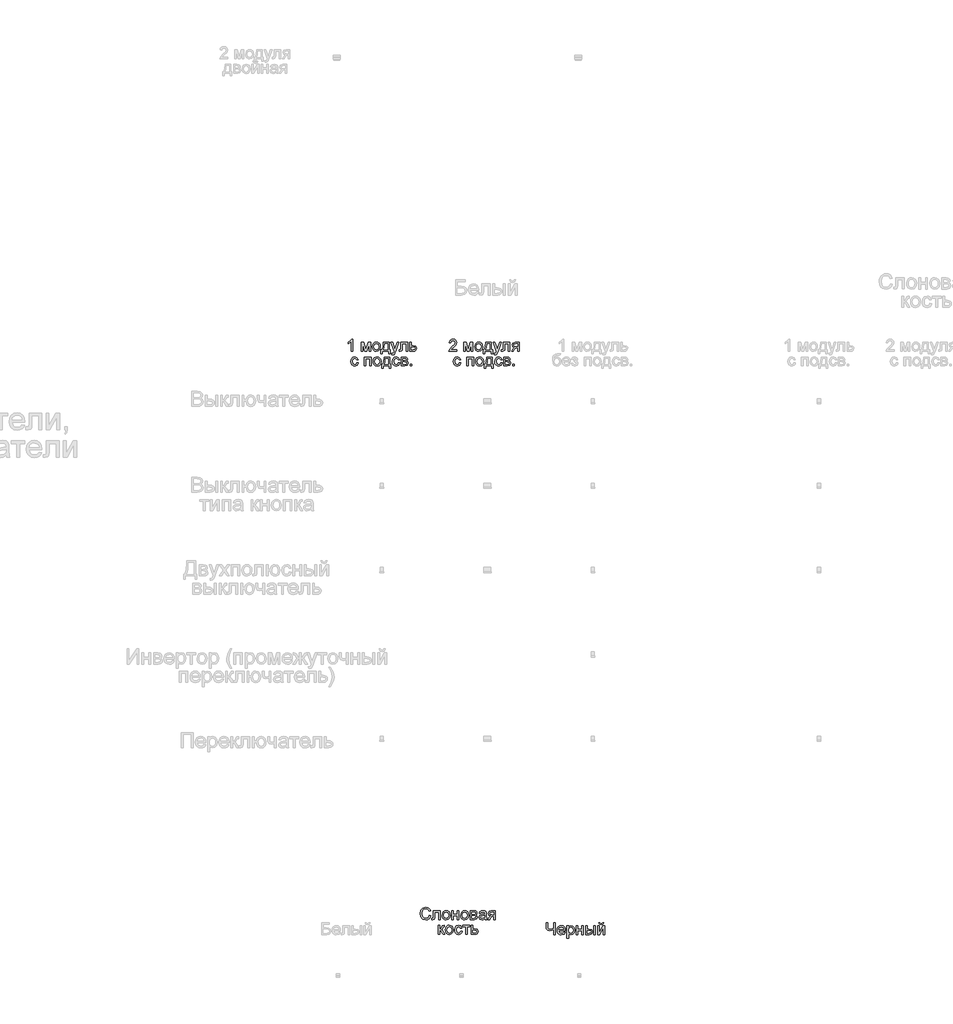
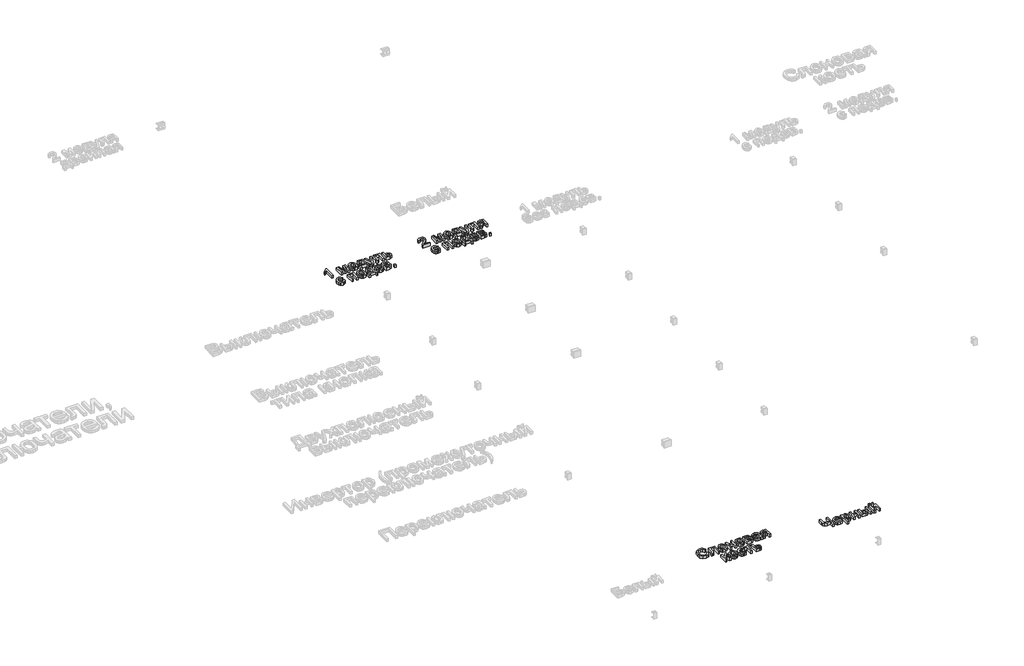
# One storey, part 19 of 47: 4 proxies.
"""IFC4 building model written with IfcOpenShell, lengths in millimetres."""

from ifc_helpers import new_model, si_unit, origin, origin_with_axes, place, context, project, spatial, polyline, outline, extrude, element, save

model = new_model("IFC4")

# Units and contexts
model_context = context("Model", 3, world=origin())
ifc_project = project(units=[si_unit("LENGTHUNIT", "METRE", prefix="MILLI")], contexts=[model_context])

# Site, building, storey
site = spatial("IfcSite", under=ifc_project)
building = spatial("IfcBuilding", under=site)
storey = spatial("IfcBuildingStorey", under=building, Name="Этаж 01", Elevation=0.0)

# Proxies
placement = place(None, origin())
element("IfcBuildingElementProxy", 1, Name="80 мм Arial", ObjectType="80 мм Arial", at=placement, inside=storey, context=model_context, shape_type="SweptSolid", body=[
    extrude(outline(polyline([(110.6688941, -28300.056116), (100.6232631, -28300.056116), (100.6232631, -28237.4278852), (91.1073822, -28244.2067241), (80.5320011, -28249.2785905), (80.5320011, -28239.78233), (95.2570911, -28230.3841713), (104.194171, -28219.6910679), (110.6688941, -28219.6910679), (110.6688941, -28300.056116)])), origin_with_axes(), (0.0, 0.0, 1.0), 20.0),
    extrude(outline(polyline([(168.4312724, -28241.0380338), (185.7168211, -28241.0380338), (199.0390544, -28288.2838922), (213.4011675, -28241.0380338), (229.9607624, -28241.0380338), (229.9607624, -28300.056116), (219.9151314, -28300.056116), (219.9151314, -28252.5355725), (205.4745368, -28300.056116), (192.2896461, -28300.056116), (178.4769035, -28250.2596092), (178.4769035, -28300.056116), (168.4312724, -28300.056116), (168.4312724, -28241.0380338)])), origin_with_axes(), (0.0, 0.0, 1.0), 20.0),
    extrude(outline(polyline([(242.5178012, -28270.5470749), (244.6907575, -28256.3173994), (251.2096265, -28246.3159142), (259.2637896, -28241.415726), (268.907203, -28239.78233), (279.4605111, -28241.7713453), (287.8899139, -28247.7383912), (293.4155015, -28257.2125789), (295.257364, -28269.7230193), (292.0003821, -28287.5971791), (282.5139317, -28297.7114815), (268.907203, -28301.3118199), (258.2263624, -28299.3301622), (249.8067698, -28293.3851892), (244.3400433, -28283.7123453), (242.5178012, -28270.5470749)]), holes=[polyline([(252.5634322, -28270.5274546), (257.2134606, -28286.0962206), (268.907203, -28291.2661889), (280.5617046, -28286.06679), (285.211733, -28270.2135286), (280.532274, -28254.9979293), (268.907203, -28249.827961), (257.2134606, -28254.9783089), (252.5634322, -28270.5274546)])]), origin_with_axes(), (0.0, 0.0, 1.0), 20.0),
    extrude(outline(polyline([(315.348626, -28241.0380338), (353.0197423, -28241.0380338), (353.0197423, -28290.010485), (360.5539656, -28290.010485), (360.5539656, -28316.3802664), (350.5083346, -28316.3802664), (350.5083346, -28300.056116), (309.0701067, -28300.056116), (309.0701067, -28316.3802664), (299.0244756, -28316.3802664), (299.0244756, -28290.010485), (305.302995, -28290.010485), (313.0628526, -28270.8511907), (315.348626, -28241.0380338)]), holes=[polyline([(324.1385532, -28251.0836649), (321.7841084, -28273.97083), (316.6043299, -28290.010485), (342.9741113, -28290.010485), (342.9741113, -28251.0836649), (324.1385532, -28251.0836649)])]), origin_with_axes(), (0.0, 0.0, 1.0), 20.0),
    extrude(outline(polyline([(371.8553005, -28322.6587858), (370.5995966, -28312.9859419), (375.7008936, -28313.8688587), (380.4686443, -28312.7603076), (383.3920799, -28309.6700989), (386.1389321, -28302.2732182), (386.923747, -28299.8402919), (365.5767811, -28241.0380338), (376.1717826, -28241.0380338), (387.4927378, -28273.8040569), (391.4364328, -28286.9104661), (395.3801278, -28275.334446), (407.0150091, -28241.0380338), (417.531529, -28241.0380338), (396.9889984, -28301.4687829), (391.6522569, -28314.5751921), (385.8250061, -28321.6581468), (377.9964773, -28323.9144897), (371.8553005, -28322.6587858)])), origin_with_axes(), (0.0, 0.0, 1.0), 20.0),
    extrude(outline(polyline([(430.8733827, -28241.0380338), (476.0787223, -28241.0380338), (476.0787223, -28299.9972549), (466.0330913, -28299.9972549), (466.0330913, -28251.0836649), (440.9190137, -28251.0836649), (440.9190137, -28279.2389002), (440.2421109, -28292.2275872), (436.5240502, -28297.7114815), (427.734123, -28300.056116), (419.5720478, -28299.5459863), (419.5720478, -28290.010485), (424.0651133, -28290.010485), (428.6072296, -28289.3924433), (430.4221141, -28287.430406), (430.8733827, -28278.6699094), (430.8733827, -28241.0380338)])), origin_with_axes(), (0.0, 0.0, 1.0), 20.0),
    extrude(outline(polyline([(491.1471688, -28241.0380338), (501.1927998, -28241.0380338), (501.1927998, -28262.3849997), (512.7688199, -28262.3849997), (530.230952, -28267.4176254), (534.8221193, -28273.4042918), (536.3525084, -28281.2990394), (531.1432993, -28294.5526014), (524.3718181, -28298.6802374), (514.4757924, -28300.056116), (491.1471688, -28300.056116), (491.1471688, -28241.0380338)]), holes=[polyline([(501.1927998, -28290.010485), (510.5713381, -28290.010485), (522.6869185, -28287.9012949), (526.3068774, -28281.3186598), (523.6286964, -28275.1382422), (511.7681809, -28272.4306308), (501.1927998, -28272.4306308), (501.1927998, -28290.010485)])]), origin_with_axes(), (0.0, 0.0, 1.0), 20.0),
    extrude(outline(polyline([(138.9222313, -28376.2890044), (148.9678624, -28377.5447083), (146.1670541, -28386.4793357), (140.903889, -28393.2311966), (124.9721461, -28398.8916742), (114.2864004, -28396.9173742), (105.930574, -28390.994474), (100.537424, -28381.3829438), (98.7397073, -28368.3427533), (101.8102957, -28351.655626), (111.1692136, -28340.9330921), (124.8348035, -28337.3621842), (140.1092639, -28342.2672775), (147.7121585, -28356.1977424), (137.6665275, -28357.4534463), (133.0066889, -28349.9290332), (124.913285, -28347.4078153), (113.2685935, -28352.3717696), (108.7853383, -28368.0680681), (113.1704917, -28383.9115194), (124.6385997, -28388.8460432), (134.1054298, -28385.7656446), (138.9222313, -28376.2890044)])), origin_with_axes(), (0.0, 0.0, 1.0), 20.0),
    extrude(outline(polyline([(189.1503864, -28338.6178881), (234.355726, -28338.6178881), (234.355726, -28397.6359703), (224.310095, -28397.6359703), (224.310095, -28348.6635191), (199.1960174, -28348.6635191), (199.1960174, -28397.6359703), (189.1503864, -28397.6359703), (189.1503864, -28338.6178881)])), origin_with_axes(), (0.0, 0.0, 1.0), 20.0),
    extrude(outline(polyline([(246.9127648, -28368.1269292), (249.0857211, -28353.8972536), (255.60459, -28343.8957685), (263.6587532, -28338.9955803), (273.3021665, -28337.3621842), (283.8554747, -28339.3511996), (292.2848775, -28345.3182455), (297.8104651, -28354.7924332), (299.6523276, -28367.3028736), (296.3953457, -28385.1770334), (286.9088953, -28395.2913357), (273.3021665, -28398.8916742), (262.6213259, -28396.9100165), (254.2017334, -28390.9650435), (248.7350069, -28381.2921996), (246.9127648, -28368.1269292)]), holes=[polyline([(256.9583958, -28368.1073088), (261.6084242, -28383.6760749), (273.3021665, -28388.8460432), (284.9566681, -28383.6466443), (289.6066966, -28367.7933829), (284.9272376, -28352.5777836), (273.3021665, -28347.4078153), (261.6084242, -28352.5581632), (256.9583958, -28368.1073088)])]), origin_with_axes(), (0.0, 0.0, 1.0), 20.0),
    extrude(outline(polyline([(319.7435896, -28338.6178881), (357.4147059, -28338.6178881), (357.4147059, -28387.5903393), (364.9489292, -28387.5903393), (364.9489292, -28413.9601207), (354.9032982, -28413.9601207), (354.9032982, -28397.6359703), (313.4650702, -28397.6359703), (313.4650702, -28413.9601207), (303.4194392, -28413.9601207), (303.4194392, -28387.5903393), (309.6979586, -28387.5903393), (317.4578161, -28368.431045), (319.7435896, -28338.6178881)]), holes=[polyline([(328.5335167, -28348.6635191), (326.179072, -28371.5506843), (320.9992935, -28387.5903393), (347.3690749, -28387.5903393), (347.3690749, -28348.6635191), (328.5335167, -28348.6635191)])]), origin_with_axes(), (0.0, 0.0, 1.0), 20.0),
    extrude(outline(polyline([(413.9213804, -28376.2890044), (423.9670114, -28377.5447083), (421.1662031, -28386.4793357), (415.9030381, -28393.2311966), (399.9712951, -28398.8916742), (389.2855494, -28396.9173742), (380.929723, -28390.994474), (375.536573, -28381.3829438), (373.7388563, -28368.3427533), (376.8094447, -28351.655626), (386.1683627, -28340.9330921), (399.8339525, -28337.3621842), (415.1084129, -28342.2672775), (422.7113075, -28356.1977424), (412.6656765, -28357.4534463), (408.0058379, -28349.9290332), (399.912434, -28347.4078153), (388.2677426, -28352.3717696), (383.7844873, -28368.0680681), (388.1696407, -28383.9115194), (399.6377488, -28388.8460432), (409.1045788, -28385.7656446), (413.9213804, -28376.2890044)])), origin_with_axes(), (0.0, 0.0, 1.0), 20.0),
    extrude(outline(polyline([(432.7569385, -28338.6178881), (454.8887194, -28338.6178881), (467.0239201, -28339.9618837), (473.8518099, -28344.8865973), (476.7065742, -28353.4705105), (474.9799814, -28360.4455532), (469.7805825, -28365.4193177), (476.5299909, -28370.8639713), (479.217982, -28380.3308013), (473.4692127, -28393.3783494), (458.2830439, -28397.6359703), (432.7569385, -28397.6359703), (432.7569385, -28338.6178881)]), holes=[polyline([(442.8025695, -28361.2205579), (452.7304783, -28361.2205579), (460.9219841, -28360.7104282), (464.9049198, -28358.6699094), (466.6609432, -28354.9812793), (463.5805446, -28350.0565656), (453.0444043, -28348.6635191), (442.8025695, -28348.6635191), (442.8025695, -28361.2205579)]), polyline([(442.8025695, -28387.5903393), (455.1241638, -28387.5903393), (466.0527116, -28385.7754548), (469.172351, -28379.5067456), (467.4555683, -28374.6703236), (462.9821233, -28371.8548001), (454.1431452, -28371.2661889), (442.8025695, -28371.2661889), (442.8025695, -28387.5903393)])]), origin_with_axes(), (0.0, 0.0, 1.0), 20.0),
    extrude(outline(polyline([(494.2864285, -28397.6359703), (494.2864285, -28387.5903393), (504.3320595, -28387.5903393), (504.3320595, -28397.6359703), (494.2864285, -28397.6359703)])), origin_with_axes(), (0.0, 0.0, 1.0), 20.0),
])
element("IfcBuildingElementProxy", 2, Name="80 мм Arial", ObjectType="80 мм Arial", at=placement, inside=storey, context=model_context, shape_type="SweptSolid", body=[
    extrude(outline(polyline([(803.2259329, -28290.010485), (803.2259329, -28300.056116), (750.4863701, -28300.056116), (751.5654906, -28293.1301244), (757.6674266, -28282.4664516), (770.2440857, -28270.8217602), (787.5884955, -28254.0855819), (791.924598, -28242.7057655), (787.8337502, -28233.4940004), (777.1504571, -28229.7366989), (766.0158953, -28233.4057087), (761.7877049, -28243.5494416), (751.7420739, -28242.2937377), (754.1774527, -28232.5767479), (759.4430704, -28225.479078), (767.2642416, -28221.1380704), (777.3662812, -28219.6910679), (787.5418972, -28221.2999385), (795.3483531, -28226.1265503), (800.31476, -28233.3370374), (801.970229, -28242.097534), (800.1847751, -28251.6232251), (794.2496122, -28261.4726524), (779.8580685, -28275.2363441), (768.3016688, -28284.8993778), (763.7693626, -28290.010485), (803.2259329, -28290.010485)])), origin_with_axes(), (0.0, 0.0, 1.0), 20.0),
    extrude(outline(polyline([(847.1755686, -28241.0380338), (864.4611173, -28241.0380338), (877.7833506, -28288.2838922), (892.1454637, -28241.0380338), (908.7050585, -28241.0380338), (908.7050585, -28300.056116), (898.6594275, -28300.056116), (898.6594275, -28252.5355725), (884.2188329, -28300.056116), (871.0339422, -28300.056116), (857.2211996, -28250.2596092), (857.2211996, -28300.056116), (847.1755686, -28300.056116), (847.1755686, -28241.0380338)])), origin_with_axes(), (0.0, 0.0, 1.0), 20.0),
    extrude(outline(polyline([(921.2620973, -28270.5470749), (923.4350536, -28256.3173994), (929.9539226, -28246.3159142), (938.0080857, -28241.415726), (947.6514991, -28239.78233), (958.2048073, -28241.7713453), (966.63421, -28247.7383912), (972.1597976, -28257.2125789), (974.0016601, -28269.7230193), (970.7446782, -28287.5971791), (961.2582278, -28297.7114815), (947.6514991, -28301.3118199), (936.9706585, -28299.3301622), (928.5510659, -28293.3851892), (923.0843395, -28283.7123453), (921.2620973, -28270.5470749)]), holes=[polyline([(931.3077283, -28270.5274546), (935.9577567, -28286.0962206), (947.6514991, -28291.2661889), (959.3060007, -28286.06679), (963.9560291, -28270.2135286), (959.2765701, -28254.9979293), (947.6514991, -28249.827961), (935.9577567, -28254.9783089), (931.3077283, -28270.5274546)])]), origin_with_axes(), (0.0, 0.0, 1.0), 20.0),
    extrude(outline(polyline([(994.0929222, -28241.0380338), (1031.7640385, -28241.0380338), (1031.7640385, -28290.010485), (1039.2982617, -28290.010485), (1039.2982617, -28316.3802664), (1029.2526307, -28316.3802664), (1029.2526307, -28300.056116), (987.8144028, -28300.056116), (987.8144028, -28316.3802664), (977.7687718, -28316.3802664), (977.7687718, -28290.010485), (984.0472911, -28290.010485), (991.8071487, -28270.8511907), (994.0929222, -28241.0380338)]), holes=[polyline([(1002.8828493, -28251.0836649), (1000.5284045, -28273.97083), (995.348626, -28290.010485), (1021.7184075, -28290.010485), (1021.7184075, -28251.0836649), (1002.8828493, -28251.0836649)])]), origin_with_axes(), (0.0, 0.0, 1.0), 20.0),
    extrude(outline(polyline([(1050.5995966, -28322.6587858), (1049.3438927, -28312.9859419), (1054.4451897, -28313.8688587), (1059.2129404, -28312.7603076), (1062.136376, -28309.6700989), (1064.8832282, -28302.2732182), (1065.6680431, -28299.8402919), (1044.3210772, -28241.0380338), (1054.9160787, -28241.0380338), (1066.237034, -28273.8040569), (1070.180729, -28286.9104661), (1074.1244239, -28275.334446), (1085.7593052, -28241.0380338), (1096.2758251, -28241.0380338), (1075.7332945, -28301.4687829), (1070.3965531, -28314.5751921), (1064.5693023, -28321.6581468), (1056.7407734, -28323.9144897), (1050.5995966, -28322.6587858)])), origin_with_axes(), (0.0, 0.0, 1.0), 20.0),
    extrude(outline(polyline([(1109.6176788, -28241.0380338), (1154.8230184, -28241.0380338), (1154.8230184, -28299.9972549), (1144.7773874, -28299.9972549), (1144.7773874, -28251.0836649), (1119.6633099, -28251.0836649), (1119.6633099, -28279.2389002), (1118.986407, -28292.2275872), (1115.2683463, -28297.7114815), (1106.4784191, -28300.056116), (1098.3163439, -28299.5459863), (1098.3163439, -28290.010485), (1102.8094094, -28290.010485), (1107.3515257, -28289.3924433), (1109.1664103, -28287.430406), (1109.6176788, -28278.6699094), (1109.6176788, -28241.0380338)])), origin_with_axes(), (0.0, 0.0, 1.0), 20.0),
    extrude(outline(polyline([(1215.0968045, -28241.0380338), (1215.0968045, -28300.056116), (1205.0511735, -28300.056116), (1205.0511735, -28277.4534463), (1199.5770894, -28277.4534463), (1192.1213476, -28278.7287705), (1185.1168744, -28287.3028736), (1177.1117622, -28300.056116), (1165.4965014, -28300.056116), (1175.5813731, -28283.9281694), (1184.1358558, -28275.5698905), (1172.4421134, -28269.4679544), (1168.635761, -28258.088138), (1173.8351599, -28245.7665437), (1188.8839861, -28241.0380338), (1215.0968045, -28241.0380338)]), holes=[polyline([(1205.0511735, -28251.0836649), (1191.8074217, -28251.0836649), (1181.0848878, -28253.4086791), (1178.6813921, -28258.8533326), (1182.2228694, -28265.3378659), (1194.770098, -28267.4078153), (1205.0511735, -28267.4078153), (1205.0511735, -28251.0836649)])]), origin_with_axes(), (0.0, 0.0, 1.0), 20.0),
    extrude(outline(polyline([(818.9222313, -28376.2890044), (828.9678624, -28377.5447083), (826.1670541, -28386.4793357), (820.903889, -28393.2311966), (804.9721461, -28398.8916742), (794.2864004, -28396.9173742), (785.930574, -28390.994474), (780.537424, -28381.3829438), (778.7397073, -28368.3427533), (781.8102957, -28351.655626), (791.1692136, -28340.9330921), (804.8348035, -28337.3621842), (820.1092639, -28342.2672775), (827.7121585, -28356.1977424), (817.6665275, -28357.4534463), (813.0066889, -28349.9290332), (804.913285, -28347.4078153), (793.2685935, -28352.3717696), (788.7853383, -28368.0680681), (793.1704917, -28383.9115194), (804.6385997, -28388.8460432), (814.1054298, -28385.7656446), (818.9222313, -28376.2890044)])), origin_with_axes(), (0.0, 0.0, 1.0), 20.0),
    extrude(outline(polyline([(869.1503864, -28338.6178881), (914.355726, -28338.6178881), (914.355726, -28397.6359703), (904.310095, -28397.6359703), (904.310095, -28348.6635191), (879.1960174, -28348.6635191), (879.1960174, -28397.6359703), (869.1503864, -28397.6359703), (869.1503864, -28338.6178881)])), origin_with_axes(), (0.0, 0.0, 1.0), 20.0),
    extrude(outline(polyline([(926.9127648, -28368.1269292), (929.0857211, -28353.8972536), (935.60459, -28343.8957685), (943.6587532, -28338.9955803), (953.3021665, -28337.3621842), (963.8554747, -28339.3511996), (972.2848775, -28345.3182455), (977.8104651, -28354.7924332), (979.6523276, -28367.3028736), (976.3953457, -28385.1770334), (966.9088953, -28395.2913357), (953.3021665, -28398.8916742), (942.6213259, -28396.9100165), (934.2017334, -28390.9650435), (928.7350069, -28381.2921996), (926.9127648, -28368.1269292)]), holes=[polyline([(936.9583958, -28368.1073088), (941.6084242, -28383.6760749), (953.3021665, -28388.8460432), (964.9566681, -28383.6466443), (969.6066966, -28367.7933829), (964.9272376, -28352.5777836), (953.3021665, -28347.4078153), (941.6084242, -28352.5581632), (936.9583958, -28368.1073088)])]), origin_with_axes(), (0.0, 0.0, 1.0), 20.0),
    extrude(outline(polyline([(999.7435896, -28338.6178881), (1037.4147059, -28338.6178881), (1037.4147059, -28387.5903393), (1044.9489292, -28387.5903393), (1044.9489292, -28413.9601207), (1034.9032982, -28413.9601207), (1034.9032982, -28397.6359703), (993.4650702, -28397.6359703), (993.4650702, -28413.9601207), (983.4194392, -28413.9601207), (983.4194392, -28387.5903393), (989.6979586, -28387.5903393), (997.4578161, -28368.431045), (999.7435896, -28338.6178881)]), holes=[polyline([(1008.5335167, -28348.6635191), (1006.179072, -28371.5506843), (1000.9992935, -28387.5903393), (1027.3690749, -28387.5903393), (1027.3690749, -28348.6635191), (1008.5335167, -28348.6635191)])]), origin_with_axes(), (0.0, 0.0, 1.0), 20.0),
    extrude(outline(polyline([(1093.9213804, -28376.2890044), (1103.9670114, -28377.5447083), (1101.1662031, -28386.4793357), (1095.9030381, -28393.2311966), (1079.9712951, -28398.8916742), (1069.2855494, -28396.9173742), (1060.929723, -28390.994474), (1055.536573, -28381.3829438), (1053.7388563, -28368.3427533), (1056.8094447, -28351.655626), (1066.1683627, -28340.9330921), (1079.8339525, -28337.3621842), (1095.1084129, -28342.2672775), (1102.7113075, -28356.1977424), (1092.6656765, -28357.4534463), (1088.0058379, -28349.9290332), (1079.912434, -28347.4078153), (1068.2677426, -28352.3717696), (1063.7844873, -28368.0680681), (1068.1696407, -28383.9115194), (1079.6377488, -28388.8460432), (1089.1045788, -28385.7656446), (1093.9213804, -28376.2890044)])), origin_with_axes(), (0.0, 0.0, 1.0), 20.0),
    extrude(outline(polyline([(1112.7569385, -28338.6178881), (1134.8887194, -28338.6178881), (1147.0239201, -28339.9618837), (1153.8518099, -28344.8865973), (1156.7065742, -28353.4705105), (1154.9799814, -28360.4455532), (1149.7805825, -28365.4193177), (1156.5299909, -28370.8639713), (1159.217982, -28380.3308013), (1153.4692127, -28393.3783494), (1138.2830439, -28397.6359703), (1112.7569385, -28397.6359703), (1112.7569385, -28338.6178881)]), holes=[polyline([(1122.8025695, -28361.2205579), (1132.7304783, -28361.2205579), (1140.9219841, -28360.7104282), (1144.9049198, -28358.6699094), (1146.6609432, -28354.9812793), (1143.5805446, -28350.0565656), (1133.0444043, -28348.6635191), (1122.8025695, -28348.6635191), (1122.8025695, -28361.2205579)]), polyline([(1122.8025695, -28387.5903393), (1135.1241638, -28387.5903393), (1146.0527116, -28385.7754548), (1149.172351, -28379.5067456), (1147.4555683, -28374.6703236), (1142.9821233, -28371.8548001), (1134.1431452, -28371.2661889), (1122.8025695, -28371.2661889), (1122.8025695, -28387.5903393)])]), origin_with_axes(), (0.0, 0.0, 1.0), 20.0),
    extrude(outline(polyline([(1174.2864285, -28397.6359703), (1174.2864285, -28387.5903393), (1184.3320595, -28387.5903393), (1184.3320595, -28397.6359703), (1174.2864285, -28397.6359703)])), origin_with_axes(), (0.0, 0.0, 1.0), 20.0),
])
element("IfcBuildingElementProxy", 3, Name="80 мм Arial", ObjectType="80 мм Arial", at=placement, inside=storey, context=model_context, shape_type="SweptSolid", body=[
    extrude(outline(polyline([(619.9006513, -32042.335375), (629.9462823, -32044.9252643), (625.3109692, -32056.6312694), (618.0367159, -32065.1832995), (608.4815942, -32070.4145814), (597.0036759, -32072.1583421), (576.0981684, -32066.8804617), (563.8354352, -32051.5961911), (559.6268652, -32030.1118826), (564.3848057, -32008.2744074), (577.9130529, -31994.1183082), (597.2195, -31989.2818862), (608.233887, -31990.846611), (617.3401926, -31995.5407852), (624.2539216, -32003.0750085), (628.6905784, -32013.1598803), (618.6449474, -32015.5535658), (610.4043907, -32003.2025409), (596.8270926, -31999.3275172), (581.1111737, -32003.6243789), (572.2329549, -32015.1611583), (569.6724962, -32030.0922622), (572.7038439, -32047.3974313), (582.1412433, -32058.4535115), (596.0030369, -32062.1127111), (611.3755992, -32057.1291363), (619.9006513, -32042.335375)])), origin_with_axes(), (0.0, 0.0, 1.0), 20.0),
    extrude(outline(polyline([(647.5261366, -32011.884556), (692.7314762, -32011.884556), (692.7314762, -32070.8437771), (682.6858451, -32070.8437771), (682.6858451, -32021.930187), (657.5717676, -32021.930187), (657.5717676, -32050.0854224), (656.8948647, -32063.0741094), (653.176804, -32068.5580036), (644.3868769, -32070.9026382), (636.2248017, -32070.3925085), (636.2248017, -32060.8570072), (640.7178671, -32060.8570072), (645.2599835, -32060.2389655), (647.074868, -32058.2769281), (647.5261366, -32049.5164316), (647.5261366, -32011.884556)])), origin_with_axes(), (0.0, 0.0, 1.0), 20.0),
    extrude(outline(polyline([(705.2885149, -32041.3935971), (707.4614713, -32027.1639215), (713.9803402, -32017.1624364), (722.0345034, -32012.2622482), (731.6779167, -32010.6288521), (742.2312249, -32012.6178674), (750.6606277, -32018.5849134), (756.1862152, -32028.0591011), (758.0280778, -32040.5695414), (754.7710958, -32058.4437013), (745.2846454, -32068.5580036), (731.6779167, -32072.1583421), (720.9970761, -32070.1766844), (712.5774835, -32064.2317114), (707.1107571, -32054.5588674), (705.2885149, -32041.3935971)]), holes=[polyline([(715.3341459, -32041.3739767), (719.9841744, -32056.9427428), (731.6779167, -32062.1127111), (743.3324183, -32056.9133122), (747.9824467, -32041.0600508), (743.3029878, -32025.8444514), (731.6779167, -32020.6744831), (719.9841744, -32025.8248311), (715.3341459, -32041.3739767)])]), origin_with_axes(), (0.0, 0.0, 1.0), 20.0),
    extrude(outline(polyline([(769.3294127, -32011.884556), (779.3750437, -32011.884556), (779.3750437, -32034.4872258), (805.7448251, -32034.4872258), (805.7448251, -32011.884556), (815.7904561, -32011.884556), (815.7904561, -32070.9026382), (805.7448251, -32070.9026382), (805.7448251, -32044.5328568), (779.3750437, -32044.5328568), (779.3750437, -32070.9026382), (769.3294127, -32070.9026382), (769.3294127, -32011.884556)])), origin_with_axes(), (0.0, 0.0, 1.0), 20.0),
    extrude(outline(polyline([(828.3474949, -32041.3935971), (830.5204512, -32027.1639215), (837.0393201, -32017.1624364), (845.0934833, -32012.2622482), (854.7368967, -32010.6288521), (865.2902048, -32012.6178674), (873.7196076, -32018.5849134), (879.2451952, -32028.0591011), (881.0870577, -32040.5695414), (877.8300758, -32058.4437013), (868.3436254, -32068.5580036), (854.7368967, -32072.1583421), (844.0560561, -32070.1766844), (835.6364635, -32064.2317114), (830.169737, -32054.5588674), (828.3474949, -32041.3935971)]), holes=[polyline([(838.3931259, -32041.3739767), (843.0431543, -32056.9427428), (854.7368967, -32062.1127111), (866.3913983, -32056.9133122), (871.0414267, -32041.0600508), (866.3619677, -32025.8444514), (854.7368967, -32020.6744831), (843.0431543, -32025.8248311), (838.3931259, -32041.3739767)])]), origin_with_axes(), (0.0, 0.0, 1.0), 20.0),
    extrude(outline(polyline([(892.3883926, -32011.884556), (914.5201734, -32011.884556), (926.6553742, -32013.2285516), (933.483264, -32018.1532652), (936.3380283, -32026.7371784), (934.6114354, -32033.7122211), (929.4120366, -32038.6859856), (936.1614449, -32044.1306392), (938.849436, -32053.5974692), (933.1006667, -32066.6450173), (917.914498, -32070.9026382), (892.3883926, -32070.9026382), (892.3883926, -32011.884556)]), holes=[polyline([(902.4340236, -32060.8570072), (914.7556179, -32060.8570072), (925.6841657, -32059.0421227), (928.803805, -32052.7734135), (927.0870224, -32047.9369915), (922.6135773, -32045.121468), (913.7745992, -32044.5328568), (902.4340236, -32044.5328568), (902.4340236, -32060.8570072)]), polyline([(902.4340236, -32034.4872258), (912.3619324, -32034.4872258), (920.5534381, -32033.9770961), (924.5363739, -32031.9365773), (926.2923973, -32028.2479471), (923.2119987, -32023.3232335), (912.6758583, -32021.930187), (902.4340236, -32021.930187), (902.4340236, -32034.4872258)])]), origin_with_axes(), (0.0, 0.0, 1.0), 20.0),
    extrude(outline(polyline([(989.0775911, -32063.368415), (979.3360759, -32070.1766844), (968.5743012, -32072.1583421), (953.9865539, -32067.3905914), (948.895067, -32055.2063398), (950.8178636, -32047.2600887), (955.8701097, -32041.491699), (962.9040134, -32038.1954763), (971.5958387, -32036.6847076), (989.01873, -32033.2315219), (989.0775911, -32030.9947994), (986.3111185, -32023.5782984), (975.2059873, -32020.6744831), (965.0426341, -32022.6070899), (960.1964019, -32029.4644103), (950.1507709, -32028.2087064), (954.4966836, -32018.3985199), (963.24737, -32012.6497506), (976.500932, -32010.6288521), (988.6753735, -32012.4143061), (995.5523142, -32016.8975613), (998.6327128, -32023.715641), (999.1232221, -32032.5055681), (999.1232221, -32045.0037458), (999.6333518, -32062.4560676), (1001.6346299, -32070.9026382), (991.5889989, -32070.9026382), (989.0775911, -32063.368415)]), holes=[polyline([(989.0775911, -32043.2771529), (972.8711629, -32046.3575515), (964.2283886, -32047.9860425), (960.3141242, -32050.6347928), (958.9406981, -32054.5000063), (961.932805, -32059.9348497), (970.7129219, -32062.1127111), (980.8762752, -32059.7092154), (987.4294798, -32053.8917748), (989.01873, -32046.122107), (989.0775911, -32043.2771529)])]), origin_with_axes(), (0.0, 0.0, 1.0), 20.0),
    extrude(outline(polyline([(1058.1413043, -32011.884556), (1058.1413043, -32070.9026382), (1048.0956733, -32070.9026382), (1048.0956733, -32048.2999684), (1042.6215892, -32048.2999684), (1035.1658475, -32049.5752927), (1028.1613743, -32058.1493957), (1020.1562621, -32070.9026382), (1008.5410012, -32070.9026382), (1018.625873, -32054.7746915), (1027.1803556, -32046.4164126), (1015.4866133, -32040.3144766), (1011.6802609, -32028.9346602), (1016.8796598, -32016.6130659), (1031.9284859, -32011.884556), (1058.1413043, -32011.884556)]), holes=[polyline([(1048.0956733, -32021.930187), (1034.8519215, -32021.930187), (1024.1293876, -32024.2552012), (1021.7258919, -32029.6998548), (1025.2673692, -32036.1843881), (1037.8145978, -32038.2543374), (1048.0956733, -32038.2543374), (1048.0956733, -32021.930187)])]), origin_with_axes(), (0.0, 0.0, 1.0), 20.0),
    extrude(outline(polyline([(679.5465855, -32109.4644103), (689.5922165, -32109.4644103), (689.5922165, -32134.5784878), (696.3220044, -32132.7734135), (701.8353293, -32122.2568935), (706.4166864, -32113.182471), (710.4584832, -32110.2296048), (717.806313, -32109.4644103), (719.7291095, -32109.4644103), (719.7291095, -32119.5689024), (717.021498, -32119.5100413), (712.1164048, -32120.5695414), (708.6632191, -32127.1816072), (704.6116121, -32134.3332332), (698.9315141, -32137.8354697), (705.2688946, -32141.7448291), (711.4885528, -32149.9804807), (722.2405173, -32168.4824925), (710.8214601, -32168.4824925), (700.2853198, -32150.3728881), (694.9878191, -32142.7111325), (689.5922165, -32140.8570072), (689.5922165, -32168.4824925), (679.5465855, -32168.4824925), (679.5465855, -32109.4644103)])), origin_with_axes(), (0.0, 0.0, 1.0), 20.0),
    extrude(outline(polyline([(726.0076289, -32138.9734514), (728.1805852, -32124.7437758), (734.6994542, -32114.7422906), (742.7536173, -32109.8421025), (752.3970307, -32108.2087064), (762.9503389, -32110.1977217), (771.3797416, -32116.1647677), (776.9053292, -32125.6389553), (778.7471917, -32138.1493957), (775.4902098, -32156.0235556), (766.0037594, -32166.1378579), (752.3970307, -32169.7381964), (741.7161901, -32167.7565387), (733.2965975, -32161.8115656), (727.8298711, -32152.1387217), (726.0076289, -32138.9734514)]), holes=[polyline([(736.0532599, -32138.953831), (740.7032883, -32154.522597), (752.3970307, -32159.6925654), (764.0515323, -32154.4931665), (768.7015607, -32138.639905), (764.0221017, -32123.4243057), (752.3970307, -32118.2543374), (740.7032883, -32123.4046854), (736.0532599, -32138.953831)])]), origin_with_axes(), (0.0, 0.0, 1.0), 20.0),
    extrude(outline(polyline([(827.7196429, -32147.1355266), (837.7652739, -32148.3912305), (834.9644657, -32157.3258579), (829.7013006, -32164.0777187), (813.7695577, -32169.7381964), (803.083812, -32167.7638963), (794.7279856, -32161.8409962), (789.3348356, -32152.2294659), (787.5371189, -32139.1892755), (790.6077073, -32122.5021482), (799.9666252, -32111.7796143), (813.6322151, -32108.2087064), (828.9066755, -32113.1137997), (836.5095701, -32127.0442646), (826.4639391, -32128.2999684), (821.8041004, -32120.7755554), (813.7106966, -32118.2543374), (802.0660051, -32123.2182918), (797.5827499, -32138.9145903), (801.9679033, -32154.7580415), (813.4360113, -32159.6925654), (822.9028413, -32156.6121668), (827.7196429, -32147.1355266)])), origin_with_axes(), (0.0, 0.0, 1.0), 20.0),
    extrude(outline(polyline([(841.5323856, -32109.4644103), (889.2491329, -32109.4644103), (889.2491329, -32119.5100413), (870.4135747, -32119.5100413), (870.4135747, -32168.4824925), (860.3679437, -32168.4824925), (860.3679437, -32119.5100413), (841.5323856, -32119.5100413), (841.5323856, -32109.4644103)])), origin_with_axes(), (0.0, 0.0, 1.0), 20.0),
    extrude(outline(polyline([(898.03906, -32109.4644103), (908.084691, -32109.4644103), (908.084691, -32130.8113762), (919.6607112, -32130.8113762), (937.1228432, -32135.8440019), (941.7140105, -32141.8306682), (943.2443996, -32149.7254158), (938.0351905, -32162.9789778), (931.2637093, -32167.1066138), (921.3676836, -32168.4824925), (898.03906, -32168.4824925), (898.03906, -32109.4644103)]), holes=[polyline([(908.084691, -32158.4368615), (917.4632294, -32158.4368615), (929.5788098, -32156.3276714), (933.1987686, -32149.7450362), (930.5205877, -32143.5646187), (918.6600721, -32140.8570072), (908.084691, -32140.8570072), (908.084691, -32158.4368615)])]), origin_with_axes(), (0.0, 0.0, 1.0), 20.0),
])
element("IfcBuildingElementProxy", 4, Name="80 мм Arial", ObjectType="80 мм Arial", at=placement, inside=storey, context=model_context, shape_type="SweptSolid", body=[
    extrude(outline(polyline([(1455.5237699, -32170.9026382), (1445.4781389, -32170.9026382), (1445.4781389, -32138.7252264), (1420.5995059, -32144.5328568), (1405.9136566, -32140.5597313), (1397.3984147, -32130.4748595), (1395.2499839, -32114.4744453), (1395.2499839, -32090.5375901), (1405.2956149, -32090.5375901), (1405.2956149, -32113.1206395), (1406.5022678, -32123.9829686), (1410.1222267, -32130.3571373), (1421.7178671, -32134.4872258), (1445.4781389, -32129.503651), (1445.4781389, -32090.5375901), (1455.5237699, -32090.5375901), (1455.5237699, -32170.9026382)])), origin_with_axes(), (0.0, 0.0, 1.0), 20.0),
    extrude(outline(polyline([(1513.168426, -32153.3227839), (1523.0178533, -32154.5784878), (1513.8060882, -32167.5475544), (1496.6480719, -32172.1583421), (1484.8611328, -32170.1693268), (1475.7916153, -32164.2022808), (1470.0085104, -32154.6447066), (1468.0808087, -32141.8841064), (1470.0281307, -32128.6943106), (1475.8700968, -32118.8301681), (1484.816987, -32112.6791811), (1496.0790811, -32110.6288521), (1506.9904611, -32112.674276), (1515.7092644, -32118.8105477), (1521.4261506, -32128.6550699), (1523.3317793, -32141.8252453), (1523.2729182, -32144.5328568), (1478.1264397, -32144.5328568), (1483.9046396, -32157.5804049), (1496.8442756, -32162.1127111), (1506.6937029, -32160.0133312), (1513.168426, -32153.3227839)]), holes=[polyline([(1478.1264397, -32134.4872258), (1513.2861483, -32134.4872258), (1509.2639718, -32125.3833727), (1496.0398404, -32120.6744831), (1483.6691951, -32124.4317846), (1478.1264397, -32134.4872258)])]), origin_with_axes(), (0.0, 0.0, 1.0), 20.0),
    extrude(outline(polyline([(1533.3774103, -32193.505308), (1533.3774103, -32111.884556), (1543.4230413, -32111.884556), (1543.4230413, -32121.7339833), (1550.3686534, -32113.4051349), (1559.7471917, -32110.6288521), (1572.4808139, -32114.513686), (1580.799852, -32125.4618542), (1583.6055654, -32140.9423285), (1580.4368751, -32157.217428), (1571.2349202, -32168.3029388), (1558.5307286, -32172.1583421), (1549.7898524, -32169.578263), (1543.4230413, -32163.054489), (1543.4230413, -32193.505308), (1533.3774103, -32193.505308)]), holes=[polyline([(1543.4230413, -32141.8644861), (1547.768954, -32157.1683771), (1558.3149045, -32162.1127111), (1569.0766791, -32156.9917937), (1573.5599344, -32141.1189119), (1569.1845912, -32125.7757801), (1558.7269323, -32120.6744831), (1548.0632596, -32126.0995163), (1543.4230413, -32141.8644861)])]), origin_with_axes(), (0.0, 0.0, 1.0), 20.0),
    extrude(outline(polyline([(1594.9069003, -32111.884556), (1604.9525313, -32111.884556), (1604.9525313, -32134.4872258), (1631.3223127, -32134.4872258), (1631.3223127, -32111.884556), (1641.3679437, -32111.884556), (1641.3679437, -32170.9026382), (1631.3223127, -32170.9026382), (1631.3223127, -32144.5328568), (1604.9525313, -32144.5328568), (1604.9525313, -32170.9026382), (1594.9069003, -32170.9026382), (1594.9069003, -32111.884556)])), origin_with_axes(), (0.0, 0.0, 1.0), 20.0),
    extrude(outline(polyline([(1711.6873608, -32111.884556), (1721.7329918, -32111.884556), (1721.7329918, -32170.9026382), (1711.6873608, -32170.9026382), (1711.6873608, -32111.884556)])), origin_with_axes(), (0.0, 0.0, 1.0), 20.0),
    extrude(outline(polyline([(1656.4363902, -32111.884556), (1666.4820213, -32111.884556), (1666.4820213, -32133.2315219), (1678.9017174, -32133.2315219), (1697.5901228, -32138.2641476), (1702.5123839, -32144.2508139), (1704.1531376, -32152.1455616), (1698.6496229, -32165.3991236), (1691.5004495, -32169.5267596), (1681.0599585, -32170.9026382), (1656.4363902, -32170.9026382), (1656.4363902, -32111.884556)]), holes=[polyline([(1666.4820213, -32160.8570072), (1676.8023375, -32160.8570072), (1690.1245708, -32158.7478171), (1694.1075066, -32152.1651819), (1691.1546404, -32145.9847644), (1678.1169025, -32143.2771529), (1666.4820213, -32143.2771529), (1666.4820213, -32160.8570072)])]), origin_with_axes(), (0.0, 0.0, 1.0), 20.0),
    extrude(outline(polyline([(1736.8014384, -32111.884556), (1746.8470694, -32111.884556), (1746.8470694, -32156.8936918), (1771.5294987, -32111.884556), (1784.5181857, -32111.884556), (1784.5181857, -32170.9026382), (1774.4725547, -32170.9026382), (1774.4725547, -32126.1681876), (1749.9470883, -32170.9026382), (1736.8014384, -32170.9026382), (1736.8014384, -32111.884556)])), origin_with_axes(), (0.0, 0.0, 1.0), 20.0),
    extrude(outline(polyline([(1769.4497392, -32090.5375901), (1776.9839624, -32090.5375901), (1772.1082997, -32101.7113926), (1761.287664, -32105.6060366), (1749.5743012, -32101.7408231), (1744.3356616, -32090.5375901), (1751.8698849, -32090.5375901), (1754.6952186, -32096.1980677), (1760.3851268, -32098.0718134), (1766.6244054, -32096.2569288), (1769.4497392, -32090.5375901)])), origin_with_axes(), (0.0, 0.0, 1.0), 20.0),
])

save(model, "model.ifc")
